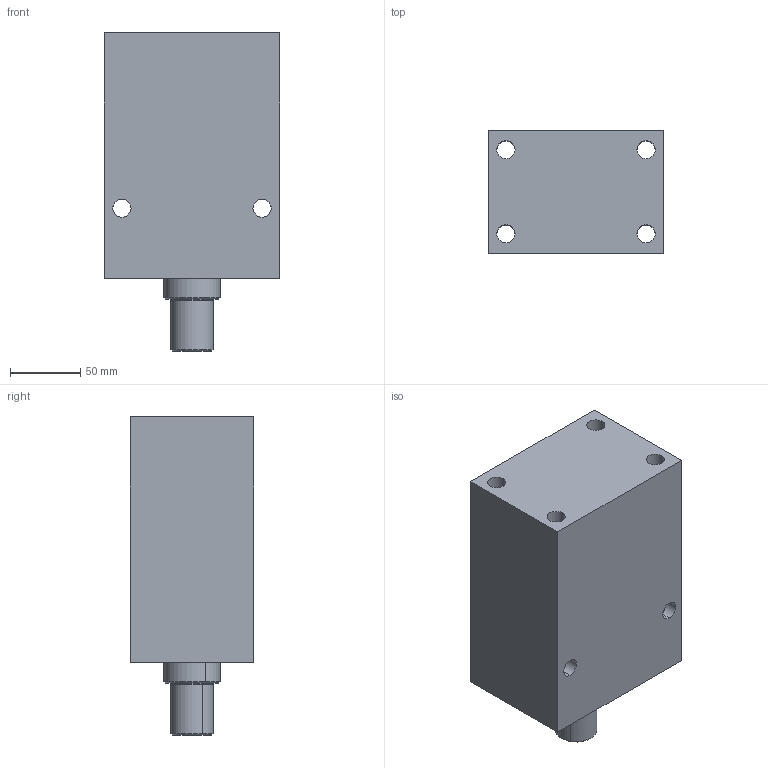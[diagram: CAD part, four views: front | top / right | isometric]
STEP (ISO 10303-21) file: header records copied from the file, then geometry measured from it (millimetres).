
FILE_DESCRIPTION (( 'STEP AP203' ), '1' );
FILE_NAME ('Block cylinder B01C-6100M.STEP', '2022-07-09T18:14:25', ( '' ), ( '' ), 'SwSTEP 2.0', 'SolidWorks 2017', '' );
FILE_SCHEMA (( 'CONFIG_CONTROL_DESIGN' ));
Length unit declared in the file: millimetre
Products named in the file (3): Block cylinder B01C-6100M; Body_ 6100M_50ST; Piston _ 6100M
Assembly tree (2 placements, depth 2):
  Block cylinder B01C-6100M
    Body_ 6100M_50ST
    Piston _ 6100M
Bounding box: 125 x 88 x 227 mm (x, y, z)
Volume: 2027638.6 mm3; surface area: 163315.2 mm2
Topology: 2 solids, 2 shells, 369 faces, 1000 edges, 654 vertices
Faces by surface type: bspline 171, plane 144, cylinder 46, cone 8
Entity records: 18809 total; most frequent: CARTESIAN_POINT 10427, ORIENTED_EDGE 1992, DIRECTION 1092, EDGE_CURVE 996, VERTEX_POINT 654, VECTOR 558, LINE 558, EDGE_LOOP 412
